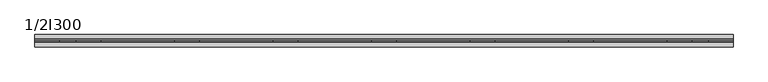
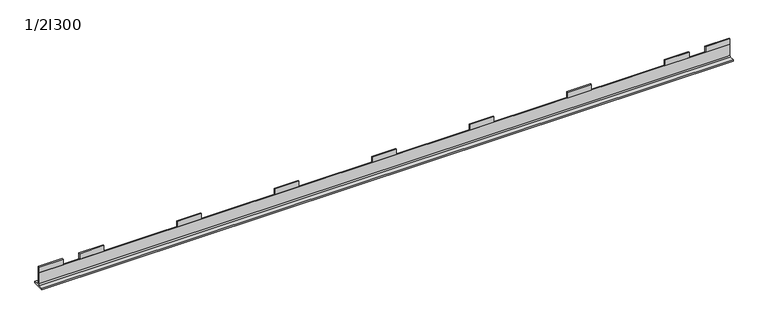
"""IFC4 building model written with IfcOpenShell, lengths in millimetres: beam geometry, Wzmocnienie do belek - dokładny podział : 1/2I300."""

from ifc_helpers import new_model, si_unit, point, frame, frame_2d, origin, place, context, project, spatial, polyline, circle_curve, trimmed, segment, composite_curve, outline, extrude, source, transform, mapped, element, save


def beam_1_2i300_a4cd45c2(model_context):
    return source(origin(), model_context, "Body", "SweptSolid", [
        extrude(outline(polyline([(5428.3333333, -5.5), (5428.3333333, 5.5), (5678.3333333, 5.5), (5678.3333333, -5.5), (5428.3333333, -5.5)])), frame((0.0, 0.0, -60.0), z_axis=(0.0, 0.0, 1.0), x_axis=(1.0, 0.0, 0.0)), (0.0, 0.0, 1.0), 60.0),
        extrude(outline(polyline([(4426.6666667, -5.5), (4426.6666667, 5.5), (4676.6666667, 5.5), (4676.6666667, -5.5), (4426.6666667, -5.5)])), frame((0.0, 0.0, -60.0), z_axis=(0.0, 0.0, 1.0), x_axis=(1.0, 0.0, 0.0)), (0.0, 0.0, 1.0), 60.0),
        extrude(outline(polyline([(3425.0, -5.5), (3425.0, 5.5), (3675.0, 5.5), (3675.0, -5.5), (3425.0, -5.5)])), frame((0.0, 0.0, -60.0), z_axis=(0.0, 0.0, 1.0), x_axis=(1.0, 0.0, 0.0)), (0.0, 0.0, 1.0), 60.0),
        extrude(outline(polyline([(2423.3333333, -5.5), (2423.3333333, 5.5), (2673.3333333, 5.5), (2673.3333333, -5.5), (2423.3333333, -5.5)])), frame((0.0, 0.0, -60.0), z_axis=(0.0, 0.0, 1.0), x_axis=(1.0, 0.0, 0.0)), (0.0, 0.0, 1.0), 60.0),
        extrude(outline(polyline([(1421.6666667, -5.5), (1421.6666667, 5.5), (1671.6666667, 5.5), (1671.6666667, -5.5), (1421.6666667, -5.5)])), frame((0.0, 0.0, -60.0), z_axis=(0.0, 0.0, 1.0), x_axis=(1.0, 0.0, 0.0)), (0.0, 0.0, 1.0), 60.0),
        extrude(outline(polyline([(6430.0, -5.5), (6430.0, 5.5), (6680.0, 5.5), (6680.0, -5.5), (6430.0, -5.5)])), frame((0.0, 0.0, -60.0), z_axis=(0.0, 0.0, 1.0), x_axis=(1.0, 0.0, 0.0)), (0.0, 0.0, 1.0), 60.0),
        extrude(outline(polyline([(420.0, -5.5), (420.0, 5.5), (670.0, 5.5), (670.0, -5.5), (420.0, -5.5)])), frame((0.0, 0.0, -60.0), z_axis=(0.0, 0.0, 1.0), x_axis=(1.0, 0.0, 0.0)), (0.0, 0.0, 1.0), 60.0),
        extrude(outline(polyline([(6850.0, -5.5), (6850.0, 5.5), (7100.0, 5.5), (7100.0, -5.5), (6850.0, -5.5)])), frame((0.0, 0.0, -60.0), z_axis=(0.0, 0.0, 1.0), x_axis=(1.0, 0.0, 0.0)), (0.0, 0.0, 1.0), 60.0),
        extrude(outline(polyline([(0.0, -5.5), (0.0, 5.5), (250.0, 5.5), (250.0, -5.5), (0.0, -5.5)])), frame((0.0, 0.0, -60.0), z_axis=(0.0, 0.0, 1.0), x_axis=(1.0, 0.0, 0.0)), (0.0, 0.0, 1.0), 60.0),
        extrude(outline(composite_curve([segment(polyline([(62.5, -210.0), (-62.5, -210.0), (-62.5, -193.8), (-16.2, -193.8)]), True, "CONTINUOUS"), segment(trimmed(circle_curve(frame_2d((-16.2, -183.0)), 10.8), [point((-16.2, -193.8))], [point((-5.4, -183.0))], True, "CARTESIAN"), True, "CONTINUOUS"), segment(polyline([(-5.4, -183.0), (-5.4, -60.0), (5.4, -60.0), (5.4, -183.0)]), True, "CONTINUOUS"), segment(trimmed(circle_curve(frame_2d((16.2, -183.0)), 10.8), [point((5.4, -183.0))], [point((16.2, -193.8))], True, "CARTESIAN"), True, "CONTINUOUS"), segment(polyline([(16.2, -193.8), (62.5, -193.8), (62.5, -210.0)]), True, "CONTINUOUS")], self_intersect=False)), frame((0.0, 0.0, 0.0), z_axis=(1.0, 0.0, 0.0), x_axis=(0.0, 1.0, 0.0)), (0.0, 0.0, 1.0), 7100.0),
    ])


if __name__ == "__main__":
    model = new_model("IFC4")
    model_context = context("Model", 3, world=origin())
    ifc_project = project(units=[si_unit("LENGTHUNIT", "METRE", prefix="MILLI")], contexts=[model_context])
    site = spatial("IfcSite", under=ifc_project)
    building = spatial("IfcBuilding", under=site)
    placement = place(None, origin())
    beam_1_2i300_shape = beam_1_2i300_a4cd45c2(model_context)
    element("IfcBeam", 1, ObjectType="Wzmocnienie do belek - dokładny podział : 1/2I300", at=placement, inside=building, context=model_context, shape_type="MappedRepresentation", body=[
        mapped(beam_1_2i300_shape, transform((0.0, 0.0, 0.0), x_axis=(1.0, 0.0, 0.0), y_axis=(0.0, 1.0, 0.0), z_axis=(0.0, 0.0, 1.0))),
    ])
    save(model, "model.ifc")
